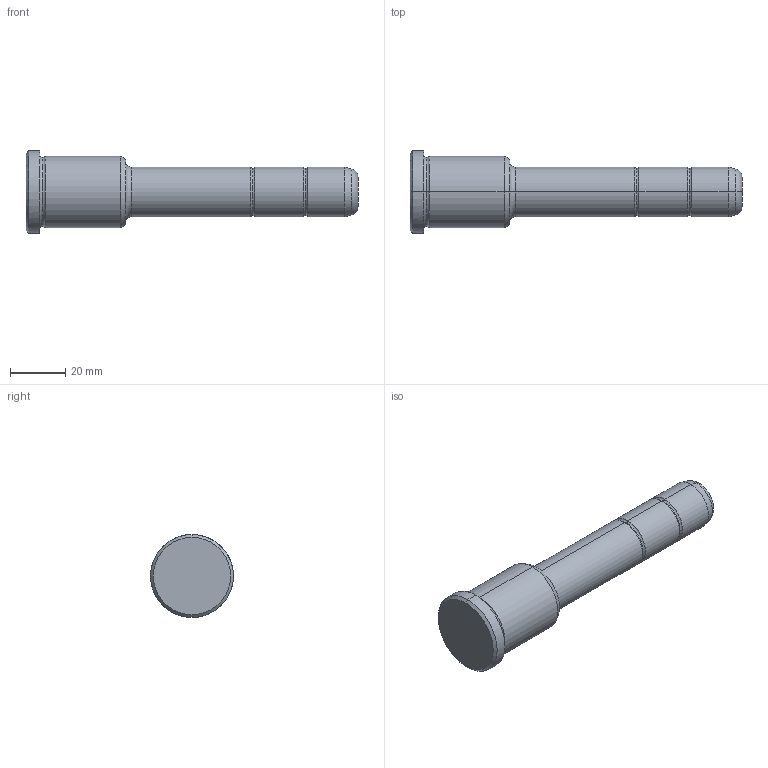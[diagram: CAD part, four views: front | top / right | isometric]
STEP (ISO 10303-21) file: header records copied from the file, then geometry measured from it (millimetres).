
FILE_DESCRIPTION(('CATIA V5 STEP Exchange'),'2;1');
FILE_NAME('C:\Users\Utente\Desktop\IO LAVORO\3D X SITO CF\X SITO\PLASTICA\351\351-18X36X120.stp','2021-08-19T12:40:32+00:00',('none'),('none'),'CATIA Version 5 Release 20 GA (IN-10)','CATIA V5 STEP AP203','none');
FILE_SCHEMA(('CONFIG_CONTROL_DESIGN'));
Length unit declared in the file: millimetre
Products named in the file (1): 351-18X36X120
Bounding box: 120 x 30 x 30 mm (x, y, z)
Volume: 40936.3 mm3; surface area: 8936.8 mm2
Topology: 1 solids, 1 shells, 36 faces, 102 edges, 70 vertices
Faces by surface type: torus 16, cylinder 10, cone 6, plane 4
Entity records: 1292 total; most frequent: CARTESIAN_POINT 321, ORIENTED_EDGE 204, DIRECTION 166, AXIS2_PLACEMENT_3D 115, EDGE_CURVE 102, CIRCLE 78, VERTEX_POINT 70, EDGE_LOOP 38
